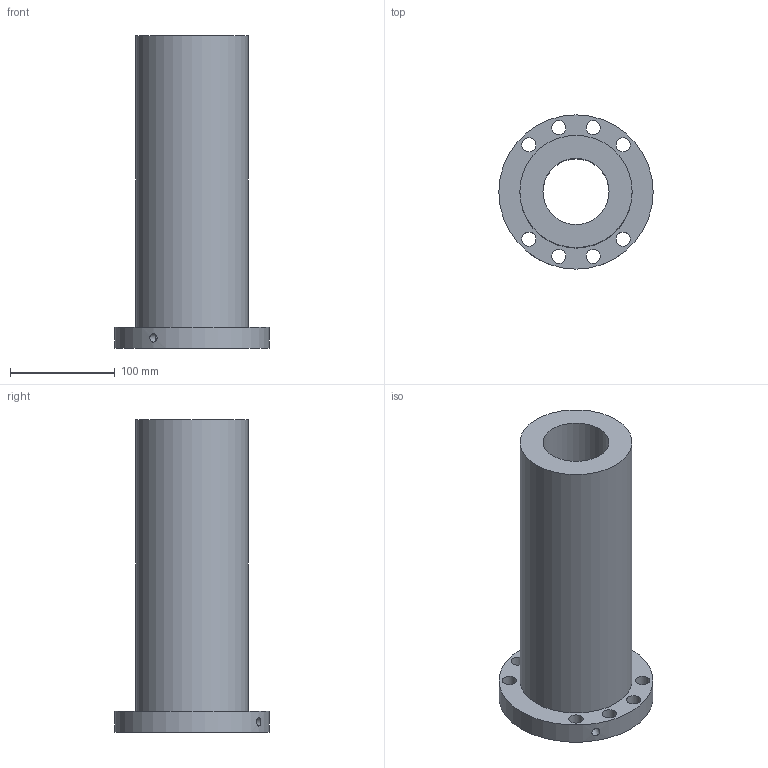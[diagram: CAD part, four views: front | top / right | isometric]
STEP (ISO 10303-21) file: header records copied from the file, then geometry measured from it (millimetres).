
FILE_DESCRIPTION(/* description */ (''),/* implementation_level */ '2;1');
FILE_NAME(/* name */ '63-20K5_9525',/* time_stamp */ '2007-10-15T12:53:53+08:00',/* author */ (''),/* organization */ (''),/* preprocessor_version */ 'ST-DEVELOPER v11',/* originating_system */ 'UGS - NX 5.0',/* authorisation */ '');
FILE_SCHEMA (('CONFIG_CONTROL_DESIGN'));
Length unit declared in the file: millimetre
Products named in the file (1): 63-20K5_9525
Bounding box: 147 x 147 x 298 mm (x, y, z)
Volume: 1885968.5 mm3; surface area: 194668.8 mm2
Topology: 1 solids, 1 shells, 17 faces, 40 edges, 27 vertices
Faces by surface type: cylinder 13, plane 4
Full cylindrical faces by diameter (mm): 6 x1, 8 x1, 13.5 x8, 63 x1, 107 x1, 147 x1
Entity records: 668 total; most frequent: CARTESIAN_POINT 184, DIRECTION 84, FACE_BOUND 52, EDGE_LOOP 52, ORIENTED_EDGE 52, AXIS2_PLACEMENT_3D 42, VERTEX_POINT 26, EDGE_CURVE 26
